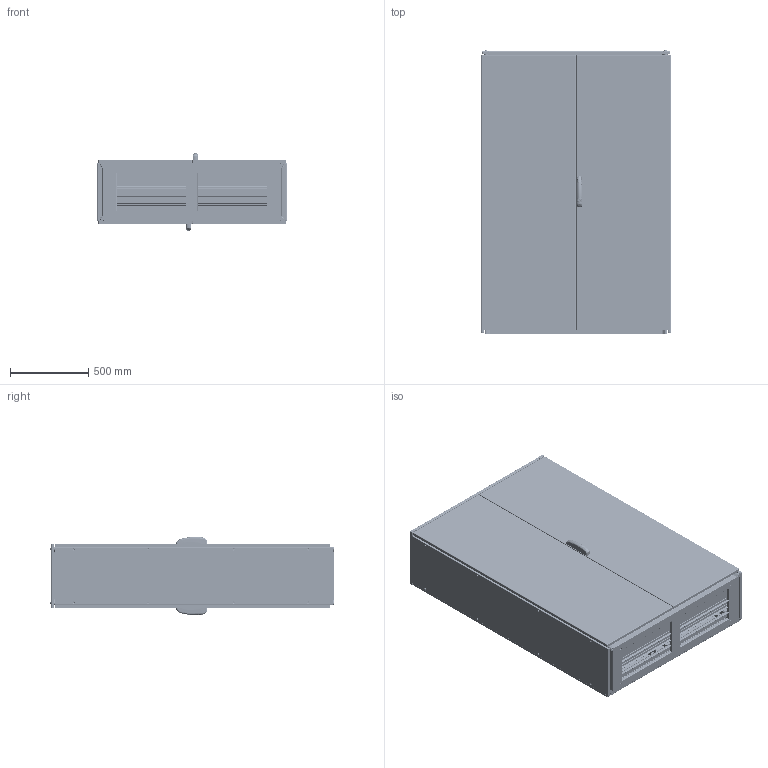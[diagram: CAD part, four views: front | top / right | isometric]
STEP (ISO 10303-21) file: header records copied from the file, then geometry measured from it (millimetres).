
FILE_DESCRIPTION (( 'STEP AP203' ), '1' );
FILE_NAME ('ENUX121804DP.STEP', '2025-06-03T06:39:25', ( '' ), ( '' ), 'SwSTEP 2.0', 'SolidWorks 2022', '' );
FILE_SCHEMA (( 'CONFIG_CONTROL_DESIGN' ));
Products named in the file (15): AR_ENUX_montaggio_porta_IB_2.0_1200x1800_ANT_DX; AR_ENUX_Porta_IB_2.0_1200x1800_POST; ENUX121804DP; AR_ENUX_Fianco_0400x1800_SX; AR_ENUX_montaggio_porta_IB_2.0_1200x1800_POST_DX; AR_ENUX_Tetto_1200x0400; AR_ENUX_Struttura_1200x1800x0400; AR_ENUX_Porta_CB_2.0_1200x1800_POST_DX; AR_ENUX_Vite_tetto; AR_ENUX_Tegolino_1200x0100; AR_ENUX_Porta_CB_2.0_1200x1800_ANT_DX; AR_ENUX_nuova_maniglia_mesan; AR_ENUX_Tegolino_1200x0050; AR_ENUX_Fianco_0400x1800_DX; AR_ENUX_Porta_IB_2.0_1200x1800_ANT
Assembly tree (22 placements, depth 3):
  ENUX121804DP
    AR_ENUX_Struttura_1200x1800x0400
    AR_ENUX_Fianco_0400x1800_SX
    AR_ENUX_Fianco_0400x1800_DX
    AR_ENUX_Tetto_1200x0400
    AR_ENUX_Vite_tetto  x4
    AR_ENUX_Tegolino_1200x0050  x4
    AR_ENUX_Tegolino_1200x0100  x2
    AR_ENUX_montaggio_porta_IB_2.0_1200x1800_ANT_DX
      AR_ENUX_Porta_IB_2.0_1200x1800_ANT
      AR_ENUX_nuova_maniglia_mesan
    AR_ENUX_Porta_CB_2.0_1200x1800_ANT_DX
    AR_ENUX_montaggio_porta_IB_2.0_1200x1800_POST_DX
      AR_ENUX_Porta_IB_2.0_1200x1800_POST
      AR_ENUX_nuova_maniglia_mesan
    AR_ENUX_Porta_CB_2.0_1200x1800_POST_DX
Bounding box: 1212 x 1815.1 x 500 mm (x, y, z)
Volume: 18836781.7 mm3; surface area: 21894740.8 mm2
Topology: 20 solids, 21 shells, 11094 faces, 31497 edges, 20386 vertices
Faces by surface type: plane 5685, cylinder 4506, bspline 398, torus 263, cone 164, sphere 78
Entity records: 398802 total; most frequent: CARTESIAN_POINT 103073, ORIENTED_EDGE 61060, DIRECTION 59357, EDGE_CURVE 30530, VECTOR 20263, LINE 20263, VERTEX_POINT 19934, AXIS2_PLACEMENT_3D 19547
